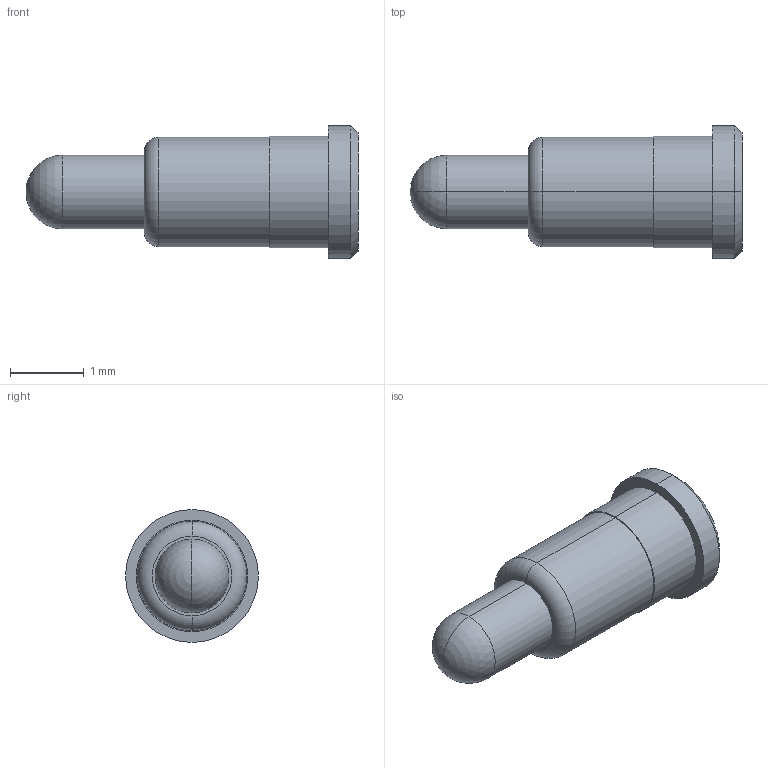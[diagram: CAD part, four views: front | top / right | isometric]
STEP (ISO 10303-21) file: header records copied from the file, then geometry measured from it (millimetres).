
FILE_DESCRIPTION((''),'2;1');
FILE_NAME('PRT0008','2023-05-25T15:24:23',('Administrator'),(''),'CREO PARAMETRIC BY PTC INC, 2018400','CREO PARAMETRIC BY PTC INC, 2018400','');
FILE_SCHEMA(('CONFIG_CONTROL_DESIGN'));
Length unit declared in the file: millimetre
Products named in the file (1): PRT0008
Bounding box: 4.5 x 1.8 x 1.8 mm (x, y, z)
Volume: 6.4 mm3; surface area: 22.5 mm2
Topology: 1 solids, 1 shells, 18 faces, 36 edges, 21 vertices
Faces by surface type: cylinder 8, plane 4, sphere 2, torus 2, cone 2
Entity records: 500 total; most frequent: DIRECTION 94, CARTESIAN_POINT 73, ORIENTED_EDGE 68, AXIS2_PLACEMENT_3D 42, EDGE_CURVE 34, CIRCLE 24, VERTEX_POINT 21, EDGE_LOOP 21
